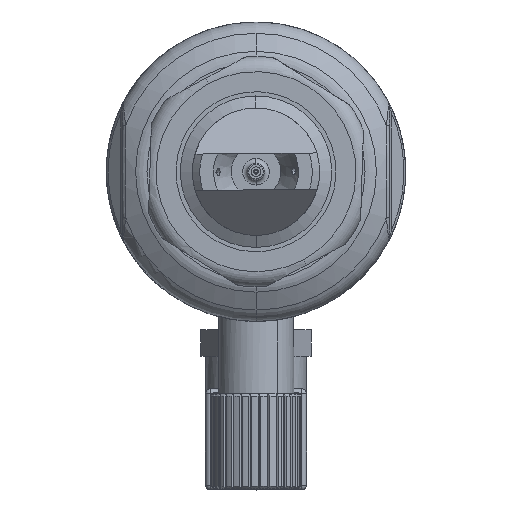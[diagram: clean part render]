
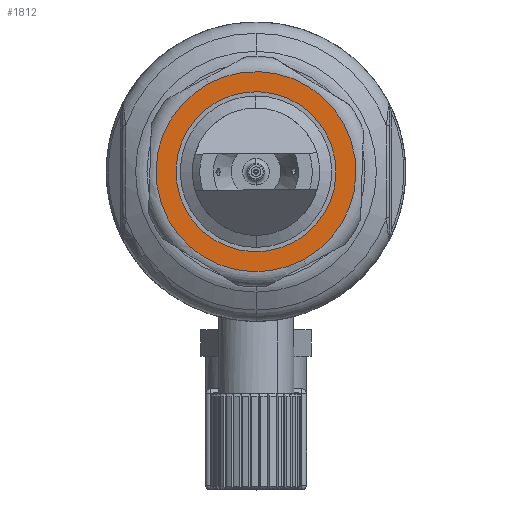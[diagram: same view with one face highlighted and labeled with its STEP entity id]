
A CAD part, front view. The second image highlights one B-rep face of the part: STEP entity #1812.
In plain terms, the highlighted planar face has unit normal (0, -1, 0).
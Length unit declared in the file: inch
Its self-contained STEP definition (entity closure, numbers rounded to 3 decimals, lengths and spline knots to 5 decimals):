
#1812 = ADVANCED_FACE ( 'NONE', ( #78623, #112699 ), #86248, .T. ) ;
#5293 = EDGE_LOOP ( 'NONE', ( #89322, #41614 ) ) ;
#9110 = DIRECTION ( 'NONE',  ( 0., -1., 0. ) ) ;
#12383 = DIRECTION ( 'NONE',  ( 0.473, 0., -0.881 ) ) ;
#15334 = VERTEX_POINT ( 'NONE', #108340 ) ;
#16414 = DIRECTION ( 'NONE',  ( 0.473, 0., -0.881 ) ) ;
#18895 = EDGE_CURVE ( 'NONE', #39598, #21010, #90651, .T. ) ;
#19379 = CIRCLE ( 'NONE', #39996, 0.33 ) ;
#21010 = VERTEX_POINT ( 'NONE', #34234 ) ;
#23084 = CARTESIAN_POINT ( 'NONE',  ( -0.19498, -0.3925, 0.36351 ) ) ;
#23919 = AXIS2_PLACEMENT_3D ( 'NONE', #66363, #100996, #12383 ) ;
#27901 = CARTESIAN_POINT ( 'NONE',  ( 0., -0.3925, 0. ) ) ;
#29550 = CARTESIAN_POINT ( 'NONE',  ( 0.15598, -0.3925, -0.29081 ) ) ;
#32005 = AXIS2_PLACEMENT_3D ( 'NONE', #114445, #96809, #16414 ) ;
#34234 = CARTESIAN_POINT ( 'NONE',  ( -0.15598, -0.3925, 0.29081 ) ) ;
#39598 = VERTEX_POINT ( 'NONE', #29550 ) ;
#39996 = AXIS2_PLACEMENT_3D ( 'NONE', #97703, #46062, #77918 ) ;
#41614 = ORIENTED_EDGE ( 'NONE', *, *, #88327, .T. ) ;
#46062 = DIRECTION ( 'NONE',  ( 0., -1., 0. ) ) ;
#62272 = AXIS2_PLACEMENT_3D ( 'NONE', #87764, #9110, #98888 ) ;
#66363 = CARTESIAN_POINT ( 'NONE',  ( 0., -0.3925, 0. ) ) ;
#66518 = ORIENTED_EDGE ( 'NONE', *, *, #18895, .F. ) ;
#77918 = DIRECTION ( 'NONE',  ( 0.473, 0., -0.881 ) ) ;
#78623 = FACE_OUTER_BOUND ( 'NONE', #5293, .T. ) ;
#80931 = CIRCLE ( 'NONE', #62272, 0.4125 ) ;
#83085 = AXIS2_PLACEMENT_3D ( 'NONE', #27901, #106549, #99463 ) ;
#85693 = CIRCLE ( 'NONE', #23919, 0.4125 ) ;
#86248 = PLANE ( 'NONE',  #32005 ) ;
#87764 = CARTESIAN_POINT ( 'NONE',  ( 0., -0.3925, 0. ) ) ;
#88327 = EDGE_CURVE ( 'NONE', #98189, #15334, #85693, .T. ) ;
#89322 = ORIENTED_EDGE ( 'NONE', *, *, #96929, .T. ) ;
#90651 = CIRCLE ( 'NONE', #83085, 0.33 ) ;
#95472 = ORIENTED_EDGE ( 'NONE', *, *, #106959, .F. ) ;
#96363 = EDGE_LOOP ( 'NONE', ( #66518, #95472 ) ) ;
#96809 = DIRECTION ( 'NONE',  ( 0., -1., 0. ) ) ;
#96929 = EDGE_CURVE ( 'NONE', #15334, #98189, #80931, .T. ) ;
#97703 = CARTESIAN_POINT ( 'NONE',  ( 0., -0.3925, 0. ) ) ;
#98189 = VERTEX_POINT ( 'NONE', #23084 ) ;
#98888 = DIRECTION ( 'NONE',  ( 0.473, 0., -0.881 ) ) ;
#99463 = DIRECTION ( 'NONE',  ( 0.473, 0., -0.881 ) ) ;
#100996 = DIRECTION ( 'NONE',  ( 0., -1., 0. ) ) ;
#106549 = DIRECTION ( 'NONE',  ( 0., -1., 0. ) ) ;
#106959 = EDGE_CURVE ( 'NONE', #21010, #39598, #19379, .T. ) ;
#108340 = CARTESIAN_POINT ( 'NONE',  ( 0.19498, -0.3925, -0.36351 ) ) ;
#112699 = FACE_BOUND ( 'NONE', #96363, .T. ) ;
#114445 = CARTESIAN_POINT ( 'NONE',  ( 0.29081, -0.3925, 0.15598 ) ) ;
